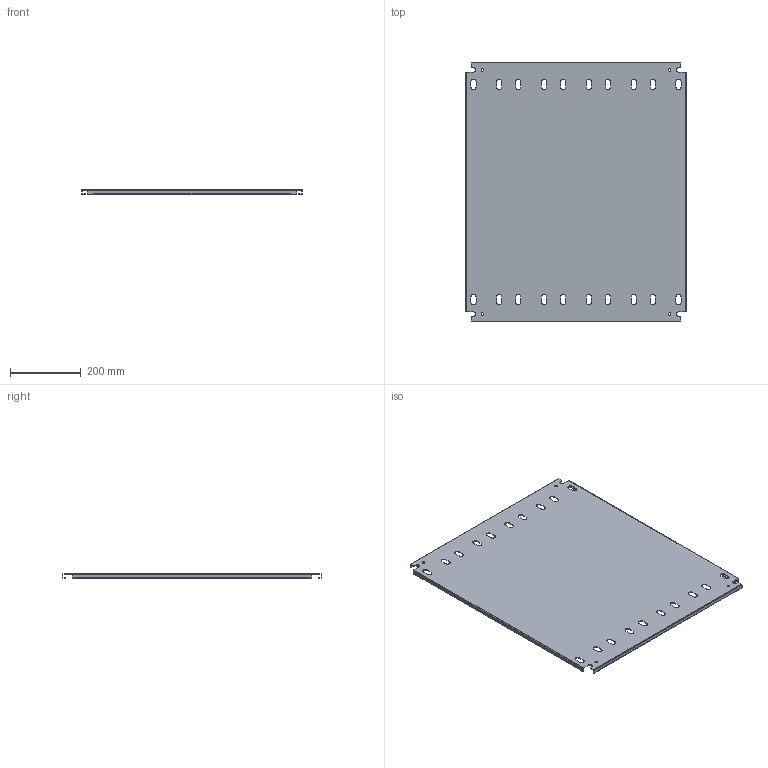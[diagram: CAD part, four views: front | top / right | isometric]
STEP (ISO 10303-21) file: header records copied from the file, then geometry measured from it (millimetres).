
FILE_DESCRIPTION(/* description */ ('1412BTCU 24.625" x 29" Inner Panel'),/* implementation_level */ '2;1');
FILE_NAME(/* name */ 'C:\Vault_Workspace\Inventor_Dwg\BoxCad\Result\1412BTCU04405\e-mail\3D\1412BTCU04405IP1.stp',/* time_stamp */ '2022-09-06T18:35:52-04:00',/* author */ ('BoxCad'),/* organization */ (''),/* preprocessor_version */ 'ST-DEVELOPER v18.1',/* originating_system */ 'Autodesk Inventor 2020',/* authorisation */ '');
FILE_SCHEMA (('AUTOMOTIVE_DESIGN { 1 0 10303 214 3 1 1 }'));
Length unit declared in the file: inch
Products named in the file (2): 1412BTCU04405IP1; 1412BTCU04405IP1-P
Assembly tree (1 placements, depth 2):
  1412BTCU04405IP1
    1412BTCU04405IP1-P
Bounding box: 625.48 x 736.6 x 13 mm (x, y, z)
Volume: 858884.1 mm3; surface area: 1002443.9 mm2
Topology: 1 solids, 1 shells, 190 faces, 564 edges, 376 vertices
Faces by surface type: plane 106, cylinder 84
Full cylindrical faces by diameter (mm): 7.366 x4
Entity records: 6561 total; most frequent: CARTESIAN_POINT 1133, ORIENTED_EDGE 1128, DIRECTION 1118, EDGE_CURVE 564, LINE 396, VECTOR 396, VERTEX_POINT 376, AXIS2_PLACEMENT_3D 361
